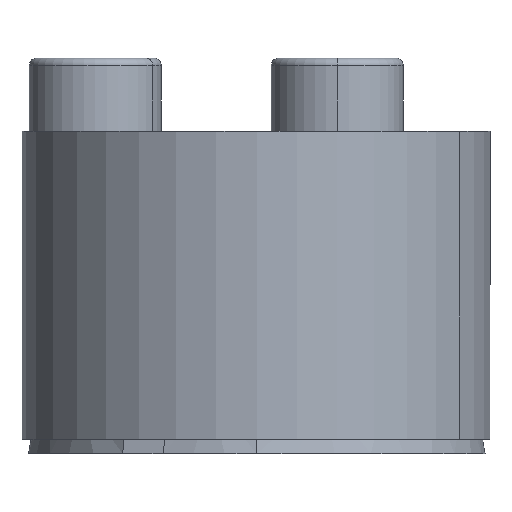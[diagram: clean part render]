
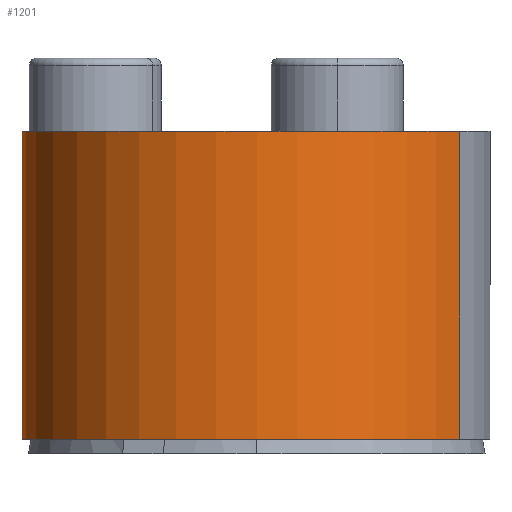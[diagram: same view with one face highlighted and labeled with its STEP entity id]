
A CAD part, left-side view. The second image highlights one B-rep face of the part: STEP entity #1201.
In plain terms, the highlighted cylindrical face has radius 8 mm (diameter 16 mm), a partial arc.
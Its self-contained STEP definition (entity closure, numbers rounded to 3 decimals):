
#139 = FACE_OUTER_BOUND ( 'NONE', #219, .T. ) ;
#184 = EDGE_CURVE ( 'NONE', #2744, #3446, #1354, .T. ) ;
#219 = EDGE_LOOP ( 'NONE', ( #699, #1283, #1742, #3372 ) ) ;
#222 = DIRECTION ( 'NONE',  ( -0.5, -0.866, 0. ) ) ;
#240 = DIRECTION ( 'NONE',  ( 0.5, 0.866, 0. ) ) ;
#463 = CARTESIAN_POINT ( 'NONE',  ( 0., 0., 10.994 ) ) ;
#532 = LINE ( 'NONE', #644, #2775 ) ;
#644 = CARTESIAN_POINT ( 'NONE',  ( -4., -6.928, 0.494 ) ) ;
#699 = ORIENTED_EDGE ( 'NONE', *, *, #2247, .F. ) ;
#930 = DIRECTION ( 'NONE',  ( 0.5, 0.866, 0. ) ) ;
#1201 = ADVANCED_FACE ( 'NONE', ( #139 ), #3158, .T. ) ;
#1282 = CARTESIAN_POINT ( 'NONE',  ( -4., -6.928, 10.994 ) ) ;
#1283 = ORIENTED_EDGE ( 'NONE', *, *, #5023, .F. ) ;
#1352 = CARTESIAN_POINT ( 'NONE',  ( 4., 6.928, 10.994 ) ) ;
#1354 = CIRCLE ( 'NONE', #1489, 8. ) ;
#1383 = VECTOR ( 'NONE', #3080, 1000. ) ;
#1489 = AXIS2_PLACEMENT_3D ( 'NONE', #463, #3600, #930 ) ;
#1516 = LINE ( 'NONE', #2616, #1383 ) ;
#1742 = ORIENTED_EDGE ( 'NONE', *, *, #3700, .T. ) ;
#1990 = DIRECTION ( 'NONE',  ( 0., 0., 1. ) ) ;
#2247 = EDGE_CURVE ( 'NONE', #5511, #3446, #1516, .T. ) ;
#2330 = VERTEX_POINT ( 'NONE', #5372 ) ;
#2616 = CARTESIAN_POINT ( 'NONE',  ( 4., 6.928, 0.494 ) ) ;
#2728 = AXIS2_PLACEMENT_3D ( 'NONE', #5620, #2936, #240 ) ;
#2744 = VERTEX_POINT ( 'NONE', #1282 ) ;
#2775 = VECTOR ( 'NONE', #5134, 1000. ) ;
#2896 = CARTESIAN_POINT ( 'NONE',  ( 0., 0., 0.494 ) ) ;
#2936 = DIRECTION ( 'NONE',  ( 0., 0., -1. ) ) ;
#3080 = DIRECTION ( 'NONE',  ( 0., 0., 1. ) ) ;
#3158 = CYLINDRICAL_SURFACE ( 'NONE', #4597, 8. ) ;
#3372 = ORIENTED_EDGE ( 'NONE', *, *, #184, .T. ) ;
#3446 = VERTEX_POINT ( 'NONE', #1352 ) ;
#3600 = DIRECTION ( 'NONE',  ( 0., 0., -1. ) ) ;
#3700 = EDGE_CURVE ( 'NONE', #2330, #2744, #532, .T. ) ;
#4597 = AXIS2_PLACEMENT_3D ( 'NONE', #2896, #1990, #222 ) ;
#4740 = CARTESIAN_POINT ( 'NONE',  ( 4., 6.928, 0.494 ) ) ;
#5023 = EDGE_CURVE ( 'NONE', #2330, #5511, #5500, .T. ) ;
#5134 = DIRECTION ( 'NONE',  ( 0., 0., 1. ) ) ;
#5372 = CARTESIAN_POINT ( 'NONE',  ( -4., -6.928, 0.494 ) ) ;
#5500 = CIRCLE ( 'NONE', #2728, 8. ) ;
#5511 = VERTEX_POINT ( 'NONE', #4740 ) ;
#5620 = CARTESIAN_POINT ( 'NONE',  ( 0., 0., 0.494 ) ) ;
